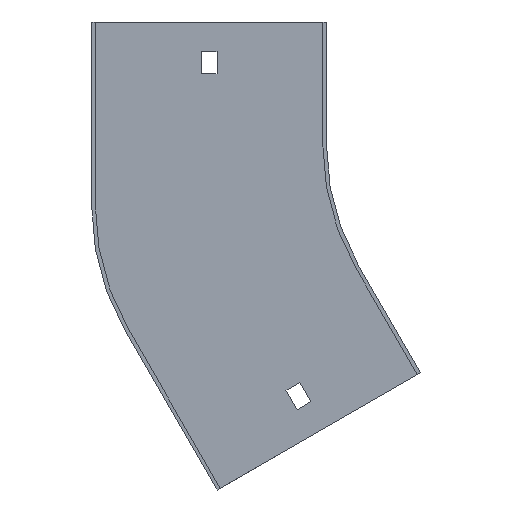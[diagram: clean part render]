
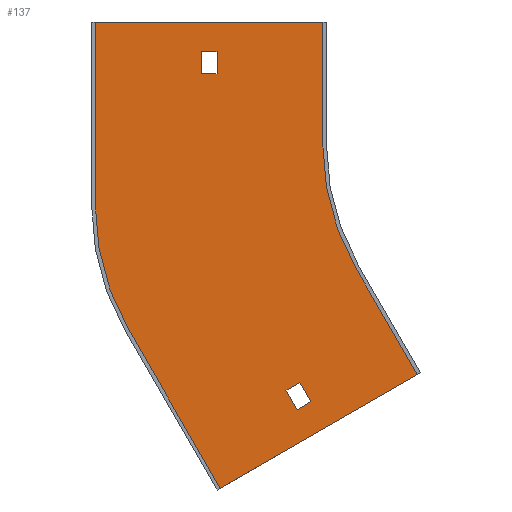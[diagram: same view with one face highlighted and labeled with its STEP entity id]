
A CAD part, front view. The second image highlights one B-rep face of the part: STEP entity #137.
In plain terms, the highlighted planar face has unit normal (0, -1, 0).
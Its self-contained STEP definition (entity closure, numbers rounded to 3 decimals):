
#6 = CARTESIAN_POINT ( 'NONE',  ( -110.471, -1.5, -107.659 ) ) ;
#7 = VECTOR ( 'NONE', #245, 1000. ) ;
#8 = CIRCLE ( 'NONE', #827, 100. ) ;
#12 = EDGE_CURVE ( 'NONE', #89, #825, #186, .T. ) ;
#22 = CARTESIAN_POINT ( 'NONE',  ( -149.5, -1.5, 29. ) ) ;
#23 = FACE_BOUND ( 'NONE', #226, .T. ) ;
#27 = LINE ( 'NONE', #360, #432 ) ;
#31 = DIRECTION ( 'NONE',  ( -0.5, 0., 0.866 ) ) ;
#43 = EDGE_CURVE ( 'NONE', #698, #788, #326, .T. ) ;
#47 = DIRECTION ( 'NONE',  ( 0.5, 0., -0.866 ) ) ;
#49 = DIRECTION ( 'NONE',  ( 0., 0., -1. ) ) ;
#55 = EDGE_CURVE ( 'NONE', #284, #430, #8, .T. ) ;
#70 = VECTOR ( 'NONE', #136, 1000. ) ;
#86 = CARTESIAN_POINT ( 'NONE',  ( -192.5, -1.5, 50. ) ) ;
#88 = CARTESIAN_POINT ( 'NONE',  ( -109.342, -1.5, -96.615 ) ) ;
#89 = VERTEX_POINT ( 'NONE', #537 ) ;
#92 = VECTOR ( 'NONE', #479, 1000. ) ;
#101 = DIRECTION ( 'NONE',  ( 0., 0., -1. ) ) ;
#112 = CARTESIAN_POINT ( 'NONE',  ( 0., -1.5, 0. ) ) ;
#136 = DIRECTION ( 'NONE',  ( 0., 0., 1. ) ) ;
#137 = ADVANCED_FACE ( 'NONE', ( #23, #759, #417 ), #549, .T. ) ;
#143 = LINE ( 'NONE', #802, #826 ) ;
#149 = ORIENTED_EDGE ( 'NONE', *, *, #820, .F. ) ;
#157 = DIRECTION ( 'NONE',  ( 0., 0., 1. ) ) ;
#163 = DIRECTION ( 'NONE',  ( 0., -1., 0. ) ) ;
#164 = EDGE_CURVE ( 'NONE', #788, #856, #27, .T. ) ;
#166 = ORIENTED_EDGE ( 'NONE', *, *, #757, .F. ) ;
#173 = VECTOR ( 'NONE', #536, 1000. ) ;
#177 = LINE ( 'NONE', #710, #815 ) ;
#179 = DIRECTION ( 'NONE',  ( -0.866, 0., -0.5 ) ) ;
#186 = LINE ( 'NONE', #513, #337 ) ;
#201 = VECTOR ( 'NONE', #473, 1000. ) ;
#212 = CARTESIAN_POINT ( 'NONE',  ( 14.5, -1.5, -25.115 ) ) ;
#217 = CARTESIAN_POINT ( 'NONE',  ( -100., -1.5, 50. ) ) ;
#223 = ORIENTED_EDGE ( 'NONE', *, *, #535, .F. ) ;
#226 = EDGE_LOOP ( 'NONE', ( #438, #381, #149, #761 ) ) ;
#234 = DIRECTION ( 'NONE',  ( 0., 0., -1. ) ) ;
#235 = ORIENTED_EDGE ( 'NONE', *, *, #253, .F. ) ;
#239 = CIRCLE ( 'NONE', #570, 100. ) ;
#242 = VERTEX_POINT ( 'NONE', #314 ) ;
#245 = DIRECTION ( 'NONE',  ( 1., 0., 0. ) ) ;
#253 = EDGE_CURVE ( 'NONE', #856, #773, #239, .T. ) ;
#263 = EDGE_CURVE ( 'NONE', #371, #702, #648, .T. ) ;
#268 = CARTESIAN_POINT ( 'NONE',  ( 19., -1.5, -32.909 ) ) ;
#284 = VERTEX_POINT ( 'NONE', #777 ) ;
#292 = EDGE_LOOP ( 'NONE', ( #855, #713, #633, #718 ) ) ;
#303 = EDGE_CURVE ( 'NONE', #825, #371, #335, .T. ) ;
#308 = VECTOR ( 'NONE', #179, 1000. ) ;
#314 = CARTESIAN_POINT ( 'NONE',  ( -104.842, -1.5, -104.409 ) ) ;
#317 = EDGE_CURVE ( 'NONE', #385, #242, #805, .T. ) ;
#326 = LINE ( 'NONE', #863, #308 ) ;
#332 = EDGE_CURVE ( 'NONE', #767, #284, #143, .T. ) ;
#335 = LINE ( 'NONE', #662, #173 ) ;
#337 = VECTOR ( 'NONE', #778, 1000. ) ;
#360 = CARTESIAN_POINT ( 'NONE',  ( -141.71, -1.5, -139.551 ) ) ;
#367 = VERTEX_POINT ( 'NONE', #86 ) ;
#371 = VERTEX_POINT ( 'NONE', #527 ) ;
#381 = ORIENTED_EDGE ( 'NONE', *, *, #317, .F. ) ;
#385 = VERTEX_POINT ( 'NONE', #6 ) ;
#392 = CARTESIAN_POINT ( 'NONE',  ( -194., -1.5, 50. ) ) ;
#395 = VECTOR ( 'NONE', #675, 1000. ) ;
#400 = ORIENTED_EDGE ( 'NONE', *, *, #332, .F. ) ;
#413 = LINE ( 'NONE', #484, #395 ) ;
#415 = CARTESIAN_POINT ( 'NONE',  ( -192.5, -1.5, -24.785 ) ) ;
#417 = FACE_BOUND ( 'NONE', #292, .T. ) ;
#418 = VECTOR ( 'NONE', #47, 1000. ) ;
#427 = LINE ( 'NONE', #564, #418 ) ;
#430 = VERTEX_POINT ( 'NONE', #469 ) ;
#432 = VECTOR ( 'NONE', #31, 1000. ) ;
#438 = ORIENTED_EDGE ( 'NONE', *, *, #590, .F. ) ;
#456 = LINE ( 'NONE', #721, #70 ) ;
#469 = CARTESIAN_POINT ( 'NONE',  ( -86.603, -1.5, -50. ) ) ;
#473 = DIRECTION ( 'NONE',  ( 0.866, 0., 0.5 ) ) ;
#479 = DIRECTION ( 'NONE',  ( -0.866, 0., -0.5 ) ) ;
#484 = CARTESIAN_POINT ( 'NONE',  ( -123.842, -1.5, -71.5 ) ) ;
#490 = EDGE_CURVE ( 'NONE', #702, #89, #456, .T. ) ;
#495 = ORIENTED_EDGE ( 'NONE', *, *, #43, .F. ) ;
#503 = ORIENTED_EDGE ( 'NONE', *, *, #853, .F. ) ;
#513 = CARTESIAN_POINT ( 'NONE',  ( 0., -1.5, 38. ) ) ;
#517 = DIRECTION ( 'NONE',  ( 0., 1., 0. ) ) ;
#521 = VERTEX_POINT ( 'NONE', #834 ) ;
#527 = CARTESIAN_POINT ( 'NONE',  ( -143., -1.5, 29. ) ) ;
#535 = EDGE_CURVE ( 'NONE', #367, #767, #596, .T. ) ;
#536 = DIRECTION ( 'NONE',  ( 0., 0., -1. ) ) ;
#537 = CARTESIAN_POINT ( 'NONE',  ( -149.5, -1.5, 38. ) ) ;
#542 = VECTOR ( 'NONE', #586, 1000. ) ;
#544 = CARTESIAN_POINT ( 'NONE',  ( -61.603, -1.5, -93.301 ) ) ;
#549 = PLANE ( 'NONE',  #659 ) ;
#561 = CARTESIAN_POINT ( 'NONE',  ( -143., -1.5, 38. ) ) ;
#564 = CARTESIAN_POINT ( 'NONE',  ( -86.603, -1.5, -50. ) ) ;
#566 = ORIENTED_EDGE ( 'NONE', *, *, #164, .F. ) ;
#570 = AXIS2_PLACEMENT_3D ( 'NONE', #848, #517, #234 ) ;
#586 = DIRECTION ( 'NONE',  ( -1., 0., 0. ) ) ;
#590 = EDGE_CURVE ( 'NONE', #242, #779, #413, .T. ) ;
#596 = LINE ( 'NONE', #392, #7 ) ;
#632 = CARTESIAN_POINT ( 'NONE',  ( 0., -1.5, 29. ) ) ;
#633 = ORIENTED_EDGE ( 'NONE', *, *, #263, .T. ) ;
#635 = DIRECTION ( 'NONE',  ( 0., -1., 0. ) ) ;
#648 = LINE ( 'NONE', #632, #542 ) ;
#659 = AXIS2_PLACEMENT_3D ( 'NONE', #696, #163, #101 ) ;
#662 = CARTESIAN_POINT ( 'NONE',  ( -143., -1.5, 0. ) ) ;
#675 = DIRECTION ( 'NONE',  ( -0.5, 0., 0.866 ) ) ;
#681 = CARTESIAN_POINT ( 'NONE',  ( -192.5, -1.5, -24.785 ) ) ;
#694 = VECTOR ( 'NONE', #157, 1000. ) ;
#696 = CARTESIAN_POINT ( 'NONE',  ( 0., -1.5, 0. ) ) ;
#698 = VERTEX_POINT ( 'NONE', #544 ) ;
#702 = VERTEX_POINT ( 'NONE', #22 ) ;
#710 = CARTESIAN_POINT ( 'NONE',  ( -129.471, -1.5, -74.75 ) ) ;
#713 = ORIENTED_EDGE ( 'NONE', *, *, #303, .T. ) ;
#718 = ORIENTED_EDGE ( 'NONE', *, *, #490, .T. ) ;
#721 = CARTESIAN_POINT ( 'NONE',  ( -149.5, -1.5, 0. ) ) ;
#725 = ORIENTED_EDGE ( 'NONE', *, *, #55, .F. ) ;
#744 = DIRECTION ( 'NONE',  ( 0., 0., -1. ) ) ;
#745 = LINE ( 'NONE', #212, #92 ) ;
#749 = CARTESIAN_POINT ( 'NONE',  ( -141.71, -1.5, -139.551 ) ) ;
#757 = EDGE_CURVE ( 'NONE', #773, #367, #824, .T. ) ;
#759 = FACE_OUTER_BOUND ( 'NONE', #839, .T. ) ;
#761 = ORIENTED_EDGE ( 'NONE', *, *, #775, .F. ) ;
#767 = VERTEX_POINT ( 'NONE', #217 ) ;
#770 = DIRECTION ( 'NONE',  ( 0.5, 0., -0.866 ) ) ;
#773 = VERTEX_POINT ( 'NONE', #415 ) ;
#775 = EDGE_CURVE ( 'NONE', #779, #521, #745, .T. ) ;
#777 = CARTESIAN_POINT ( 'NONE',  ( -100., -1.5, 0. ) ) ;
#778 = DIRECTION ( 'NONE',  ( 1., 0., 0. ) ) ;
#779 = VERTEX_POINT ( 'NONE', #88 ) ;
#788 = VERTEX_POINT ( 'NONE', #749 ) ;
#802 = CARTESIAN_POINT ( 'NONE',  ( -100., -1.5, 50. ) ) ;
#805 = LINE ( 'NONE', #268, #201 ) ;
#815 = VECTOR ( 'NONE', #770, 1000. ) ;
#820 = EDGE_CURVE ( 'NONE', #521, #385, #177, .T. ) ;
#824 = LINE ( 'NONE', #681, #694 ) ;
#825 = VERTEX_POINT ( 'NONE', #561 ) ;
#826 = VECTOR ( 'NONE', #744, 1000. ) ;
#827 = AXIS2_PLACEMENT_3D ( 'NONE', #112, #635, #49 ) ;
#834 = CARTESIAN_POINT ( 'NONE',  ( -114.971, -1.5, -99.865 ) ) ;
#839 = EDGE_LOOP ( 'NONE', ( #223, #166, #235, #566, #495, #503, #725, #400 ) ) ;
#847 = CARTESIAN_POINT ( 'NONE',  ( -179.103, -1.5, -74.785 ) ) ;
#848 = CARTESIAN_POINT ( 'NONE',  ( -92.5, -1.5, -24.785 ) ) ;
#853 = EDGE_CURVE ( 'NONE', #430, #698, #427, .T. ) ;
#855 = ORIENTED_EDGE ( 'NONE', *, *, #12, .T. ) ;
#856 = VERTEX_POINT ( 'NONE', #847 ) ;
#863 = CARTESIAN_POINT ( 'NONE',  ( -60.304, -1.5, -92.551 ) ) ;
